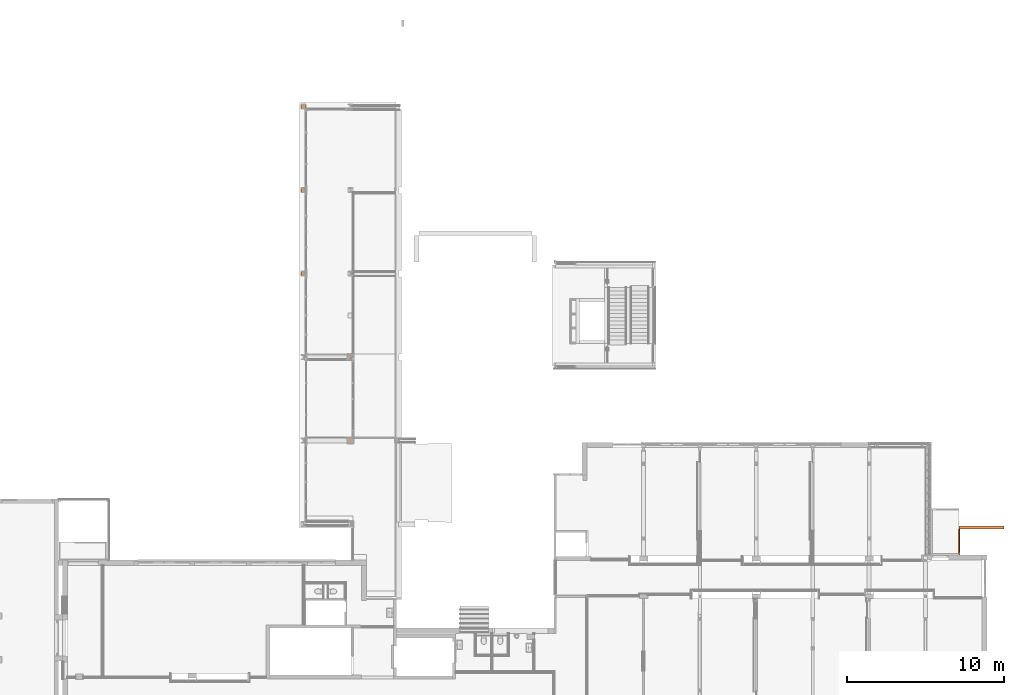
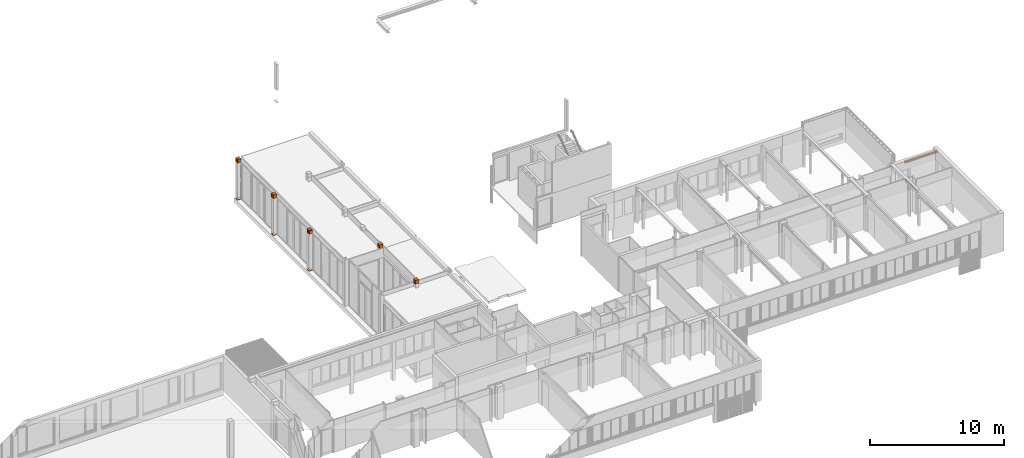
# One storey, part 98 of 99: 7 proxies.
"""IFC2X3 building model written with IfcOpenShell, lengths in millimetres."""

from ifc_helpers import new_model, entity, si_unit, converted_unit, derived_unit, money_unit, direction, frame, origin_with_axes, place, context, subcontext, project, spatial, faceted_brep, material, type_object, element, save


model = new_model("IFC2X3")

# Units and contexts
model_context = context("Model", 3, precision=0.01, world=origin_with_axes(), true_north=direction((0.0, 1.0)))
body_context = subcontext(model_context, "Body", "Model", "MODEL_VIEW")
ifc_project = project(units=[si_unit("LENGTHUNIT", "METRE", prefix="MILLI"), si_unit("AREAUNIT", "SQUARE_METRE"), si_unit("VOLUMEUNIT", "CUBIC_METRE"), converted_unit("PLANEANGLEUNIT", "DEGREE", entity("IfcPlaneAngleMeasure", 0.0174532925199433), si_unit("PLANEANGLEUNIT", "RADIAN"), dimensions=[0, 0, 0, 0, 0, 0, 0]), money_unit("EUR"), converted_unit("TIMEUNIT", "Year", entity("IfcTimeMeasure", 31557600.0), si_unit("TIMEUNIT", "SECOND"), dimensions=[0, 0, 1, 0, 0, 0, 0]), si_unit("MASSUNIT", "GRAM", prefix="KILO"), si_unit("THERMODYNAMICTEMPERATUREUNIT", "DEGREE_CELSIUS"), si_unit("LUMINOUSINTENSITYUNIT", "LUMEN"), si_unit("ENERGYUNIT", "JOULE", prefix="MEGA"), derived_unit("THERMALCONDUCTANCEUNIT", [(si_unit("POWERUNIT", "WATT"), 1), (si_unit("LENGTHUNIT", "METRE"), -1), (si_unit("THERMODYNAMICTEMPERATUREUNIT", "KELVIN"), -1)]), derived_unit("SPECIFICHEATCAPACITYUNIT", [(si_unit("ENERGYUNIT", "JOULE"), 1), (si_unit("MASSUNIT", "GRAM", prefix="KILO"), -1), (si_unit("THERMODYNAMICTEMPERATUREUNIT", "KELVIN"), -1)]), derived_unit("MASSDENSITYUNIT", [(si_unit("MASSUNIT", "GRAM", prefix="KILO"), 1), (si_unit("VOLUMEUNIT", "CUBIC_METRE"), -1)])], contexts=[model_context])

# Site, building, storey
site_placement = place(None, origin_with_axes())
site = spatial("IfcSite", under=ifc_project, at=site_placement, Name="Site", CompositionType="ELEMENT")
building_placement = place(site_placement, origin_with_axes())
building = spatial("IfcBuilding", under=site, at=building_placement, Name="Naam gebouw", CompositionType="ELEMENT")
storey_placement = place(building_placement, frame((0.0, 0.0, 7650.0), z_axis=(0.0, 0.0, 1.0), x_axis=(1.0, 0.0, 0.0)))
storey = spatial("IfcBuildingStorey", under=building, at=storey_placement, Name="2e verdieping N", CompositionType="ELEMENT", Elevation=7650.0)

# Proxies
ifc_material_1 = material(Name="Metaal - Staal AFW")
building_element_proxy_type_1 = type_object("IfcBuildingElementProxyType", Name="UPN balk 27", PredefinedType="NOTDEFINED")
proxy_1_placement = place(storey_placement, frame((56167.15277777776, 20698.4124251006, -147.3277191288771), z_axis=(0.0, 0.0, 1.0), x_axis=(0.0, -1.0, 0.0)))
element("IfcBuildingElementProxy", 1, at=proxy_1_placement, inside=storey, type_object=building_element_proxy_type_1, material=ifc_material_1, Name="_Boom-x", context=body_context, shape_type="Brep", body=[
    faceted_brep([(0.0, 0.0, 160.0), (32.49999999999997, 32.5, 160.0), (-1587.499999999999, 32.49999999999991, 160.0000000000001), (-1587.499999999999, -32.5000000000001, 160.0000000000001), (-32.49999999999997, -32.5, 160.0), (0.0, 0.0, 149.5), (27.00000000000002, 27.00000000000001, 149.5), (29.74999999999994, 29.75000000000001, 150.2368602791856), (31.76313972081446, 31.76313972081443, 152.25), (32.49999999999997, 32.5, 155.0), (-32.49999999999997, -32.5, 0.0), (0.0, 0.0, 0.0), (32.49999999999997, 32.5, 0.0), (32.49999999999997, 32.5, 4.99999999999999), (31.76313972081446, 31.76313972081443, 7.749999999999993), (29.74999999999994, 29.75000000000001, 9.763139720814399), (27.00000000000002, 27.00000000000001, 10.49999999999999), (0.0, 0.0, 10.50000000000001), (-14.49999999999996, -14.5, 10.50000000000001), (-19.75000000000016, -19.75, 11.9067332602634), (-23.59326673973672, -23.59326673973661, 15.75), (-24.99999999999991, -25.0, 21.0), (-24.99999999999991, -25.0, 139.0), (-23.59326673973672, -23.59326673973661, 144.2500000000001), (-19.75000000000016, -19.75, 148.0932667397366), (-14.49999999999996, -14.5, 149.5), (-1587.499999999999, 32.49999999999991, 155.0000000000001), (-1587.499999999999, 29.74999999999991, 150.2368602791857), (-1587.499999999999, 26.99999999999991, 149.5000000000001), (-1587.499999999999, -14.5000000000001, 149.5000000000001), (-1587.499999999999, -19.75000000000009, 148.0932667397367), (-1587.499999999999, -23.5932667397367, 144.2500000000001), (-1587.499999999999, -25.0000000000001, 139.0000000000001), (-1587.499999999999, -25.0000000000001, 21.0000000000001), (-1587.499999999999, -23.5932667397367, 15.7500000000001), (-1587.499999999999, -19.75000000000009, 11.90673326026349), (-1587.499999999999, -14.5000000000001, 10.50000000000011), (-1587.499999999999, 26.99999999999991, 10.50000000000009), (-1587.499999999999, 29.74999999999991, 9.763139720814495), (-1587.499999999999, 31.76313972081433, 7.750000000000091), (-1587.499999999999, 32.49999999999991, 5.000000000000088), (-1587.499999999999, 32.49999999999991, 0.0), (-1587.499999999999, -32.5000000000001, 0.0), (-1587.499999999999, 31.76313972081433, 152.2500000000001)], [[[0, 1, 2, 3, 4]], [[5, 6, 7, 8, 9, 1, 0, 4, 10, 11, 12, 13, 14, 15, 16, 17, 18, 19, 20, 21, 22, 23, 24, 25]], [[1, 9, 26, 2]], [[27, 28, 29, 30, 31, 32, 33, 34, 35, 36, 37, 38, 39, 40, 41, 42, 3, 2, 26, 43]], [[4, 3, 42, 10]], [[25, 29, 28, 6, 5]], [[7, 6, 28, 27]], [[8, 7, 27, 43]], [[9, 8, 43, 26]], [[10, 42, 41, 12, 11]], [[13, 12, 41, 40]], [[14, 13, 40, 39]], [[15, 14, 39, 38]], [[16, 15, 38, 37]], [[17, 16, 37, 36, 18]], [[18, 36, 35, 19]], [[19, 35, 34, 20]], [[20, 34, 33, 21]], [[21, 33, 32, 22]], [[22, 32, 31, 23]], [[23, 31, 30, 24]], [[24, 30, 29, 25]]]),
])
building_element_proxy_type_2 = type_object("IfcBuildingElementProxyType", Name="HEA balk 26", PredefinedType="NOTDEFINED")
proxy_2_placement = place(storey_placement, frame((56124.65277777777, 22405.9124251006, 1389.999999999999), z_axis=(0.0, 0.0, 1.0), x_axis=(1.0, 0.0, 0.0)))
element("IfcBuildingElementProxy", 2, at=proxy_2_placement, inside=storey, type_object=building_element_proxy_type_2, material=ifc_material_1, Name="_Boom-x", context=body_context, shape_type="Brep", body=[
    faceted_brep([(0.0, -100.0, 0.0), (0.0, 100.0, 0.0), (2885.347222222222, 99.99999999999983, 0.0), (2885.347222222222, -100.0000000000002, 0.0), (0.0, -100.0, 10.0), (0.0, -21.25, 9.999999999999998), (0.0, -12.25, 12.4115427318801), (0.0, -5.661542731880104, 19.0), (0.0, -3.25, 28.0), (0.0, -3.25, 162.0), (0.0, -5.661542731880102, 171.0), (0.0, -12.25, 177.5884572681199), (0.0, -21.24999999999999, 180.0), (0.0, -100.0, 180.0), (0.0, -100.0, 190.0), (0.0, 100.0, 190.0), (0.0, 100.0, 180.0), (0.0, 21.24999999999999, 180.0), (0.0, 12.25, 177.5884572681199), (0.0, 5.661542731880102, 171.0), (0.0, 3.25, 162.0), (0.0, 3.25, 28.0), (0.0, 5.661542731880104, 19.0), (0.0, 12.25, 12.4115427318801), (0.0, 21.25, 9.999999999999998), (0.0, 100.0, 10.0), (2885.347222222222, 99.99999999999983, 10.00000000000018), (2885.347222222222, 21.24999999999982, 10.00000000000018), (2885.347222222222, 12.24999999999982, 12.41154273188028), (2885.347222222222, 5.661542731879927, 19.00000000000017), (2885.347222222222, 3.249999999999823, 28.00000000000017), (2885.347222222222, 3.249999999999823, 162.0000000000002), (2885.347222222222, 5.661542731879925, 171.0000000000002), (2885.347222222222, 12.24999999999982, 177.5884572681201), (2885.347222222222, 21.24999999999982, 180.0000000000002), (2885.347222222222, 99.99999999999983, 180.0000000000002), (2885.347222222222, 99.99999999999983, 190.0000000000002), (2885.347222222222, -100.0000000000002, 190.0000000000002), (2885.347222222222, -100.0000000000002, 180.0000000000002), (2885.347222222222, -21.25000000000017, 180.0000000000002), (2885.347222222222, -12.25000000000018, 177.5884572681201), (2885.347222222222, -5.661542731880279, 171.0000000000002), (2885.347222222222, -3.250000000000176, 162.0000000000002), (2885.347222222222, -3.250000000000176, 28.00000000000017), (2885.347222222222, -5.661542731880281, 19.00000000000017), (2885.347222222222, -12.25000000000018, 12.41154273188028), (2885.347222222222, -21.25000000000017, 10.00000000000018), (2885.347222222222, -100.0000000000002, 10.00000000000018)], [[[0, 1, 2, 3]], [[0, 4, 5, 6, 7, 8, 9, 10, 11, 12, 13, 14, 15, 16, 17, 18, 19, 20, 21, 22, 23, 24, 25, 1]], [[1, 25, 26, 2]], [[3, 2, 26, 27, 28, 29, 30, 31, 32, 33, 34, 35, 36, 37, 38, 39, 40, 41, 42, 43, 44, 45, 46, 47]], [[4, 0, 3, 47]], [[5, 4, 47, 46]], [[6, 5, 46, 45]], [[7, 6, 45, 44]], [[8, 7, 44, 43]], [[9, 8, 43, 42]], [[10, 9, 42, 41]], [[11, 10, 41, 40]], [[12, 11, 40, 39]], [[13, 12, 39, 38]], [[14, 13, 38, 37]], [[15, 14, 37, 36]], [[16, 15, 36, 35]], [[17, 16, 35, 34]], [[18, 17, 34, 33]], [[19, 18, 33, 32]], [[20, 19, 32, 31]], [[21, 20, 31, 30]], [[22, 21, 30, 29]], [[23, 22, 29, 28]], [[24, 23, 28, 27]], [[25, 24, 27, 26]]]),
])
ifc_material_2 = material(Name="staal geanodiseerd RAL 7024")
building_element_proxy_type_3 = type_object("IfcBuildingElementProxyType", Name="Structural Connections 3:Structural Connections 1", PredefinedType="NOTDEFINED")
proxy_3_placement = place(storey_placement, frame((28651.00001269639, 22625.91242505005, -3500.0), z_axis=(0.0, 0.0, 1.0), x_axis=(0.0, 1.0, 0.0)))
element("IfcBuildingElementProxy", 3, at=proxy_3_placement, inside=storey, type_object=building_element_proxy_type_3, material=ifc_material_2, Name="Structural Connections 3:Structural Connections 1", context=body_context, shape_type="Brep", body=[
    faceted_brep([(15840.00000127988, 14206.3694829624, 0.0), (16140.00000127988, 14206.3694829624, 0.0), (16140.00000127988, 14206.3694829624, 20.0), (15840.00000127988, 14206.3694829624, 20.0), (15840.00000127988, 14506.3694829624, 0.0), (16140.00000127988, 14506.3694829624, 0.0), (16140.00000127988, 14506.3694829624, 20.0), (15840.00000127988, 14506.3694829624, 20.0)], [[[0, 1, 2, 3]], [[0, 4, 5, 1]], [[1, 5, 6, 2]], [[3, 2, 6, 7]], [[4, 0, 3, 7]], [[5, 4, 7, 6]]]),
    faceted_brep([(15840.00000127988, 14206.36948296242, 3399.999999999), (16140.0000012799, 14206.36948296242, 3399.999999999), (16140.0000012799, 14206.36948296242, 3419.999999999), (15840.00000127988, 14206.36948296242, 3419.999999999), (15840.00000127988, 14506.3694829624, 3399.999999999), (16140.0000012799, 14506.3694829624, 3399.999999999), (16140.0000012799, 14506.3694829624, 3419.999999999), (15840.00000127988, 14506.3694829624, 3419.999999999)], [[[0, 1, 2, 3]], [[0, 4, 5, 1]], [[1, 5, 6, 2]], [[3, 2, 6, 7]], [[4, 0, 3, 7]], [[5, 4, 7, 6]]]),
    faceted_brep([(15840.00000127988, 14206.36948296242, 3679.999999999), (16140.00000127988, 14206.36948296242, 3679.999999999), (16140.00000127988, 14206.36948296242, 3680.99999999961), (15840.00000127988, 14206.36948296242, 3680.99999999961), (15840.00000127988, 14506.3694829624, 3679.999999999), (16140.00000127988, 14506.3694829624, 3679.999999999), (16140.00000127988, 14506.3694829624, 3680.99999999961), (15840.00000127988, 14506.3694829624, 3680.99999999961)], [[[0, 1, 2, 3]], [[0, 4, 5, 1]], [[1, 5, 6, 2]], [[3, 2, 6, 7]], [[4, 0, 3, 7]], [[5, 4, 7, 6]]]),
    faceted_brep([(15840.00000127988, 14206.3694829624, 3379.999999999), (16140.00000127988, 14206.3694829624, 3379.999999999), (16140.00000127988, 14206.3694829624, 3399.999999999), (15840.00000127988, 14206.3694829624, 3399.999999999), (15840.00000127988, 14506.3694829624, 3379.999999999), (16140.00000127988, 14506.3694829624, 3379.999999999), (16140.00000127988, 14506.3694829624, 3399.999999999), (15840.00000127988, 14506.3694829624, 3399.999999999)], [[[0, 1, 2, 3]], [[0, 4, 5, 1]], [[1, 5, 6, 2]], [[3, 2, 6, 7]], [[4, 0, 3, 7]], [[5, 4, 7, 6]]]),
    faceted_brep([(15859.00000127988, 14206.3694829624, 3680.99999999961), (15840.00000127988, 14206.3694829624, 3680.99999999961), (15840.00000127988, 14206.3694829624, 3399.999999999), (15859.00000127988, 14206.3694829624, 3399.999999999), (15859.00000127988, 14350.8694829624, 3680.99999999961), (16121.00000127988, 14350.8694829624, 3680.99999999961), (16121.00000127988, 14206.3694829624, 3680.99999999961), (16140.00000127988, 14206.3694829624, 3680.99999999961), (16140.00000127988, 14506.3694829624, 3680.99999999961), (16121.00000127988, 14506.3694829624, 3680.99999999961), (16121.00000127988, 14361.8694829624, 3680.99999999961), (15859.00000127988, 14361.8694829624, 3680.99999999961), (15859.00000127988, 14506.3694829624, 3680.99999999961), (15840.00000127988, 14506.3694829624, 3680.99999999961), (15840.00000127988, 14506.3694829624, 3399.999999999), (15859.00000127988, 14506.3694829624, 3399.999999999), (15859.00000127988, 14361.8694829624, 3399.999999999), (16121.00000127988, 14361.8694829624, 3399.999999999), (16121.00000127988, 14506.3694829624, 3399.999999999), (16140.00000127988, 14506.3694829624, 3399.999999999), (16140.00000127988, 14206.3694829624, 3399.999999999), (16121.00000127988, 14206.3694829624, 3399.999999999), (16121.00000127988, 14350.8694829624, 3399.999999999), (15859.00000127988, 14350.8694829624, 3399.999999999)], [[[0, 1, 2, 3]], [[0, 4, 5, 6, 7, 8, 9, 10, 11, 12, 13, 1]], [[1, 13, 14, 2]], [[3, 2, 14, 15, 16, 17, 18, 19, 20, 21, 22, 23]], [[4, 0, 3, 23]], [[5, 4, 23, 22]], [[6, 5, 22, 21]], [[7, 6, 21, 20]], [[8, 7, 20, 19]], [[9, 8, 19, 18]], [[10, 9, 18, 17]], [[11, 10, 17, 16]], [[12, 11, 16, 15]], [[13, 12, 15, 14]]]),
])
building_element_proxy_type_4 = type_object("IfcBuildingElementProxyType", Name="Structural Connections 5:Structural Connections 1", PredefinedType="NOTDEFINED")
proxy_4_placement = place(storey_placement, frame((28651.00001269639, 22625.91242505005, -3500.0), z_axis=(0.0, 0.0, 1.0), x_axis=(0.0, 1.0, 0.0)))
element("IfcBuildingElementProxy", 4, at=proxy_4_placement, inside=storey, type_object=building_element_proxy_type_4, material=ifc_material_2, Name="Structural Connections 5:Structural Connections 1", context=body_context, shape_type="Brep", body=[
    faceted_brep([(26500.00000127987, 14206.36948296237, 0.0), (26800.00000127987, 14206.36948296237, 0.0), (26800.00000127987, 14206.36948296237, 20.0), (26500.00000127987, 14206.36948296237, 20.0), (26500.00000127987, 14506.36948296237, 0.0), (26800.00000127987, 14506.36948296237, 0.0), (26800.00000127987, 14506.36948296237, 20.0), (26500.00000127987, 14506.36948296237, 20.0)], [[[0, 1, 2, 3]], [[0, 4, 5, 1]], [[1, 5, 6, 2]], [[3, 2, 6, 7]], [[4, 0, 3, 7]], [[5, 4, 7, 6]]]),
    faceted_brep([(26500.00000127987, 14206.36948296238, 3399.999999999), (26800.00000127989, 14206.36948296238, 3399.999999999), (26800.00000127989, 14206.36948296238, 3419.999999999), (26500.00000127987, 14206.36948296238, 3419.999999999), (26500.00000127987, 14506.36948296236, 3399.999999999), (26800.00000127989, 14506.36948296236, 3399.999999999), (26800.00000127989, 14506.36948296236, 3419.999999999), (26500.00000127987, 14506.36948296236, 3419.999999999)], [[[0, 1, 2, 3]], [[0, 4, 5, 1]], [[1, 5, 6, 2]], [[3, 2, 6, 7]], [[4, 0, 3, 7]], [[5, 4, 7, 6]]]),
    faceted_brep([(26500.00000127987, 14206.36948296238, 3679.999999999), (26800.00000127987, 14206.36948296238, 3679.999999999), (26800.00000127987, 14206.36948296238, 3680.99999999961), (26500.00000127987, 14206.36948296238, 3680.99999999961), (26500.00000127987, 14506.36948296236, 3679.999999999), (26800.00000127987, 14506.36948296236, 3679.999999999), (26800.00000127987, 14506.36948296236, 3680.99999999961), (26500.00000127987, 14506.36948296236, 3680.99999999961)], [[[0, 1, 2, 3]], [[0, 4, 5, 1]], [[1, 5, 6, 2]], [[3, 2, 6, 7]], [[4, 0, 3, 7]], [[5, 4, 7, 6]]]),
    faceted_brep([(26500.00000127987, 14206.36948296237, 3379.999999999), (26800.00000127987, 14206.36948296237, 3379.999999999), (26800.00000127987, 14206.36948296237, 3399.999999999), (26500.00000127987, 14206.36948296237, 3399.999999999), (26500.00000127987, 14506.36948296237, 3379.999999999), (26800.00000127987, 14506.36948296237, 3379.999999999), (26800.00000127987, 14506.36948296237, 3399.999999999), (26500.00000127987, 14506.36948296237, 3399.999999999)], [[[0, 1, 2, 3]], [[0, 4, 5, 1]], [[1, 5, 6, 2]], [[3, 2, 6, 7]], [[4, 0, 3, 7]], [[5, 4, 7, 6]]]),
    faceted_brep([(26519.00000127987, 14206.36948296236, 3680.99999999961), (26500.00000127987, 14206.36948296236, 3680.99999999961), (26500.00000127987, 14206.36948296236, 3399.999999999), (26519.00000127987, 14206.36948296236, 3399.999999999), (26519.00000127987, 14350.86948296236, 3680.99999999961), (26781.00000127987, 14350.86948296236, 3680.99999999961), (26781.00000127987, 14206.36948296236, 3680.99999999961), (26800.00000127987, 14206.36948296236, 3680.99999999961), (26800.00000127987, 14506.36948296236, 3680.99999999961), (26781.00000127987, 14506.36948296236, 3680.99999999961), (26781.00000127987, 14361.86948296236, 3680.99999999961), (26519.00000127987, 14361.86948296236, 3680.99999999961), (26519.00000127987, 14506.36948296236, 3680.99999999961), (26500.00000127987, 14506.36948296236, 3680.99999999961), (26500.00000127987, 14506.36948296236, 3399.999999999), (26519.00000127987, 14506.36948296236, 3399.999999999), (26519.00000127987, 14361.86948296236, 3399.999999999), (26781.00000127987, 14361.86948296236, 3399.999999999), (26781.00000127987, 14506.36948296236, 3399.999999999), (26800.00000127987, 14506.36948296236, 3399.999999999), (26800.00000127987, 14206.36948296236, 3399.999999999), (26781.00000127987, 14206.36948296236, 3399.999999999), (26781.00000127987, 14350.86948296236, 3399.999999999), (26519.00000127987, 14350.86948296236, 3399.999999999)], [[[0, 1, 2, 3]], [[0, 4, 5, 6, 7, 8, 9, 10, 11, 12, 13, 1]], [[1, 13, 14, 2]], [[3, 2, 14, 15, 16, 17, 18, 19, 20, 21, 22, 23]], [[4, 0, 3, 23]], [[5, 4, 23, 22]], [[6, 5, 22, 21]], [[7, 6, 21, 20]], [[8, 7, 20, 19]], [[9, 8, 19, 18]], [[10, 9, 18, 17]], [[11, 10, 17, 16]], [[12, 11, 16, 15]], [[13, 12, 15, 14]]]),
])
building_element_proxy_type_5 = type_object("IfcBuildingElementProxyType", Name="Structural Connections 4:Structural Connections 1", PredefinedType="NOTDEFINED")
proxy_5_placement = place(storey_placement, frame((28651.00001269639, 22625.91242505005, -3500.0), z_axis=(0.0, 0.0, 1.0), x_axis=(0.0, 1.0, 0.0)))
element("IfcBuildingElementProxy", 5, at=proxy_5_placement, inside=storey, type_object=building_element_proxy_type_5, material=ifc_material_2, Name="Structural Connections 4:Structural Connections 1", context=body_context, shape_type="Brep", body=[
    faceted_brep([(21170.00000127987, 14206.36948296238, 0.0), (21470.00000127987, 14206.36948296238, 0.0), (21470.00000127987, 14206.36948296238, 20.0), (21170.00000127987, 14206.36948296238, 20.0), (21170.00000127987, 14506.36948296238, 0.0), (21470.00000127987, 14506.36948296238, 0.0), (21470.00000127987, 14506.36948296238, 20.0), (21170.00000127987, 14506.36948296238, 20.0)], [[[0, 1, 2, 3]], [[0, 4, 5, 1]], [[1, 5, 6, 2]], [[3, 2, 6, 7]], [[4, 0, 3, 7]], [[5, 4, 7, 6]]]),
    faceted_brep([(21170.00000127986, 14206.3694829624, 3399.999999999), (21470.00000127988, 14206.3694829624, 3399.999999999), (21470.00000127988, 14206.3694829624, 3419.999999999), (21170.00000127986, 14206.3694829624, 3419.999999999), (21170.00000127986, 14506.36948296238, 3399.999999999), (21470.00000127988, 14506.36948296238, 3399.999999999), (21470.00000127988, 14506.36948296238, 3419.999999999), (21170.00000127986, 14506.36948296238, 3419.999999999)], [[[0, 1, 2, 3]], [[0, 4, 5, 1]], [[1, 5, 6, 2]], [[3, 2, 6, 7]], [[4, 0, 3, 7]], [[5, 4, 7, 6]]]),
    faceted_brep([(21170.00000127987, 14206.3694829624, 3679.999999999), (21470.00000127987, 14206.3694829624, 3679.999999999), (21470.00000127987, 14206.3694829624, 3680.99999999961), (21170.00000127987, 14206.3694829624, 3680.99999999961), (21170.00000127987, 14506.36948296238, 3679.999999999), (21470.00000127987, 14506.36948296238, 3679.999999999), (21470.00000127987, 14506.36948296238, 3680.99999999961), (21170.00000127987, 14506.36948296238, 3680.99999999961)], [[[0, 1, 2, 3]], [[0, 4, 5, 1]], [[1, 5, 6, 2]], [[3, 2, 6, 7]], [[4, 0, 3, 7]], [[5, 4, 7, 6]]]),
    faceted_brep([(21170.00000127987, 14206.36948296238, 3379.999999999), (21470.00000127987, 14206.36948296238, 3379.999999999), (21470.00000127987, 14206.36948296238, 3399.999999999), (21170.00000127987, 14206.36948296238, 3399.999999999), (21170.00000127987, 14506.36948296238, 3379.999999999), (21470.00000127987, 14506.36948296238, 3379.999999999), (21470.00000127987, 14506.36948296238, 3399.999999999), (21170.00000127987, 14506.36948296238, 3399.999999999)], [[[0, 1, 2, 3]], [[0, 4, 5, 1]], [[1, 5, 6, 2]], [[3, 2, 6, 7]], [[4, 0, 3, 7]], [[5, 4, 7, 6]]]),
    faceted_brep([(21189.00000127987, 14206.36948296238, 3680.99999999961), (21170.00000127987, 14206.36948296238, 3680.99999999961), (21170.00000127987, 14206.36948296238, 3399.999999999), (21189.00000127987, 14206.36948296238, 3399.999999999), (21189.00000127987, 14350.86948296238, 3680.99999999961), (21451.00000127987, 14350.86948296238, 3680.99999999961), (21451.00000127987, 14206.36948296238, 3680.99999999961), (21470.00000127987, 14206.36948296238, 3680.99999999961), (21470.00000127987, 14506.36948296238, 3680.99999999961), (21451.00000127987, 14506.36948296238, 3680.99999999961), (21451.00000127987, 14361.86948296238, 3680.99999999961), (21189.00000127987, 14361.86948296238, 3680.99999999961), (21189.00000127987, 14506.36948296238, 3680.99999999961), (21170.00000127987, 14506.36948296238, 3680.99999999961), (21170.00000127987, 14506.36948296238, 3399.999999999), (21189.00000127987, 14506.36948296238, 3399.999999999), (21189.00000127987, 14361.86948296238, 3399.999999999), (21451.00000127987, 14361.86948296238, 3399.999999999), (21451.00000127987, 14506.36948296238, 3399.999999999), (21470.00000127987, 14506.36948296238, 3399.999999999), (21470.00000127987, 14206.36948296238, 3399.999999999), (21451.00000127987, 14206.36948296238, 3399.999999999), (21451.00000127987, 14350.86948296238, 3399.999999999), (21189.00000127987, 14350.86948296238, 3399.999999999)], [[[0, 1, 2, 3]], [[0, 4, 5, 6, 7, 8, 9, 10, 11, 12, 13, 1]], [[1, 13, 14, 2]], [[3, 2, 14, 15, 16, 17, 18, 19, 20, 21, 22, 23]], [[4, 0, 3, 23]], [[5, 4, 23, 22]], [[6, 5, 22, 21]], [[7, 6, 21, 20]], [[8, 7, 20, 19]], [[9, 8, 19, 18]], [[10, 9, 18, 17]], [[11, 10, 17, 16]], [[12, 11, 16, 15]], [[13, 12, 15, 14]]]),
])
building_element_proxy_type_6 = type_object("IfcBuildingElementProxyType", Name="Structural Connections 235:Structural Connections 1", PredefinedType="NOTDEFINED")
proxy_6_placement = place(storey_placement, frame((28651.00001269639, 22625.91242505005, -3500.0), z_axis=(0.0, 0.0, 1.0), x_axis=(0.0, 1.0, 0.0)))
element("IfcBuildingElementProxy", 6, at=proxy_6_placement, inside=storey, type_object=building_element_proxy_type_6, material=ifc_material_2, Name="Structural Connections 235:Structural Connections 1", context=body_context, shape_type="Brep", body=[
    faceted_brep([(5180.000001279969, 11209.00001265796, 4240.0), (5480.00000127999, 11209.00001265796, 4240.0), (5480.00000127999, 11209.00001265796, 4260.0), (5180.000001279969, 11209.00001265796, 4260.0), (5180.000001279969, 11509.00001265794, 4240.0), (5480.00000127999, 11509.00001265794, 4240.0), (5480.00000127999, 11509.00001265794, 4260.0), (5180.000001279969, 11509.00001265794, 4260.0)], [[[0, 1, 2, 3]], [[0, 4, 5, 1]], [[1, 5, 6, 2]], [[3, 2, 6, 7]], [[4, 0, 3, 7]], [[5, 4, 7, 6]]]),
    faceted_brep([(5180.000001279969, 11209.00001265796, 4520.0), (5480.00000127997, 11209.00001265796, 4520.0), (5480.00000127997, 11209.00001265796, 4539.999999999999), (5180.000001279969, 11209.00001265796, 4539.999999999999), (5180.000001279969, 11509.00001265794, 4520.0), (5480.00000127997, 11509.00001265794, 4520.0), (5480.00000127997, 11509.00001265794, 4539.999999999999), (5180.000001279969, 11509.00001265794, 4539.999999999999)], [[[0, 1, 2, 3]], [[0, 4, 5, 1]], [[1, 5, 6, 2]], [[3, 2, 6, 7]], [[4, 0, 3, 7]], [[5, 4, 7, 6]]]),
    faceted_brep([(5180.000001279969, 11209.00001265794, 4540.0), (5480.00000127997, 11209.00001265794, 4540.0), (5480.00000127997, 11209.00001265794, 4560.0), (5180.000001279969, 11209.00001265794, 4560.0), (5180.000001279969, 11509.00001265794, 4540.0), (5480.00000127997, 11509.00001265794, 4540.0), (5480.00000127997, 11509.00001265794, 4560.0), (5180.000001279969, 11509.00001265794, 4560.0)], [[[0, 1, 2, 3]], [[0, 4, 5, 1]], [[1, 5, 6, 2]], [[3, 2, 6, 7]], [[4, 0, 3, 7]], [[5, 4, 7, 6]]]),
    faceted_brep([(5180.000001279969, 11209.00001265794, 4220.0), (5480.00000127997, 11209.00001265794, 4220.0), (5480.00000127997, 11209.00001265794, 4239.999999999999), (5180.000001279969, 11209.00001265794, 4239.999999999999), (5180.000001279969, 11509.00001265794, 4220.0), (5480.00000127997, 11509.00001265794, 4220.0), (5480.00000127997, 11509.00001265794, 4239.999999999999), (5180.000001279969, 11509.00001265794, 4239.999999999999)], [[[0, 1, 2, 3]], [[0, 4, 5, 1]], [[1, 5, 6, 2]], [[3, 2, 6, 7]], [[4, 0, 3, 7]], [[5, 4, 7, 6]]]),
    faceted_brep([(5199.00000127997, 11209.00001265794, 4540.0), (5180.000001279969, 11209.00001265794, 4540.0), (5180.000001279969, 11209.00001265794, 4240.0), (5199.00000127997, 11209.00001265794, 4240.0), (5199.00000127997, 11353.50001265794, 4540.0), (5461.00000127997, 11353.50001265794, 4540.0), (5461.00000127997, 11209.00001265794, 4540.0), (5480.00000127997, 11209.00001265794, 4540.0), (5480.00000127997, 11509.00001265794, 4540.0), (5461.00000127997, 11509.00001265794, 4540.0), (5461.00000127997, 11364.50001265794, 4540.0), (5199.00000127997, 11364.50001265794, 4540.0), (5199.00000127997, 11509.00001265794, 4540.0), (5180.000001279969, 11509.00001265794, 4540.0), (5180.000001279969, 11509.00001265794, 4240.0), (5199.00000127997, 11509.00001265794, 4240.0), (5199.00000127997, 11364.50001265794, 4240.0), (5461.00000127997, 11364.50001265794, 4240.0), (5461.00000127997, 11509.00001265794, 4240.0), (5480.00000127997, 11509.00001265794, 4240.0), (5480.00000127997, 11209.00001265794, 4240.0), (5461.00000127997, 11209.00001265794, 4240.0), (5461.00000127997, 11353.50001265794, 4240.0), (5199.00000127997, 11353.50001265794, 4240.0)], [[[0, 1, 2, 3]], [[0, 4, 5, 6, 7, 8, 9, 10, 11, 12, 13, 1]], [[1, 13, 14, 2]], [[3, 2, 14, 15, 16, 17, 18, 19, 20, 21, 22, 23]], [[4, 0, 3, 23]], [[5, 4, 23, 22]], [[6, 5, 22, 21]], [[7, 6, 21, 20]], [[8, 7, 20, 19]], [[9, 8, 19, 18]], [[10, 9, 18, 17]], [[11, 10, 17, 16]], [[12, 11, 16, 15]], [[13, 12, 15, 14]]]),
])
building_element_proxy_type_7 = type_object("IfcBuildingElementProxyType", Name="Structural Connections 261:Structural Connections 1", PredefinedType="NOTDEFINED")
proxy_7_placement = place(storey_placement, frame((28651.00001269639, 22625.91242505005, -3500.0), z_axis=(0.0, 0.0, 1.0), x_axis=(0.0, 1.0, 0.0)))
element("IfcBuildingElementProxy", 7, at=proxy_7_placement, inside=storey, type_object=building_element_proxy_type_7, material=ifc_material_2, Name="Structural Connections 261:Structural Connections 1", context=body_context, shape_type="Brep", body=[
    faceted_brep([(10510.00000128, 11209.00001265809, 4240.0), (10810.00000128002, 11209.00001265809, 4240.0), (10810.00000128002, 11209.00001265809, 4260.0), (10510.00000128, 11209.00001265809, 4260.0), (10510.00000128, 11509.00001265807, 4240.0), (10810.00000128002, 11509.00001265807, 4240.0), (10810.00000128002, 11509.00001265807, 4260.0), (10510.00000128, 11509.00001265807, 4260.0)], [[[0, 1, 2, 3]], [[0, 4, 5, 1]], [[1, 5, 6, 2]], [[3, 2, 6, 7]], [[4, 0, 3, 7]], [[5, 4, 7, 6]]]),
    faceted_brep([(10510.00000128, 11209.00001265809, 4520.0), (10810.00000128, 11209.00001265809, 4520.0), (10810.00000128, 11209.00001265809, 4539.999999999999), (10510.00000128, 11209.00001265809, 4539.999999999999), (10510.00000128, 11509.00001265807, 4520.0), (10810.00000128, 11509.00001265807, 4520.0), (10810.00000128, 11509.00001265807, 4539.999999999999), (10510.00000128, 11509.00001265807, 4539.999999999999)], [[[0, 1, 2, 3]], [[0, 4, 5, 1]], [[1, 5, 6, 2]], [[3, 2, 6, 7]], [[4, 0, 3, 7]], [[5, 4, 7, 6]]]),
    faceted_brep([(10510.00000128, 11209.00001265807, 4540.0), (10810.00000128, 11209.00001265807, 4540.0), (10810.00000128, 11209.00001265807, 4560.0), (10510.00000128, 11209.00001265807, 4560.0), (10510.00000128, 11509.00001265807, 4540.0), (10810.00000128, 11509.00001265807, 4540.0), (10810.00000128, 11509.00001265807, 4560.0), (10510.00000128, 11509.00001265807, 4560.0)], [[[0, 1, 2, 3]], [[0, 4, 5, 1]], [[1, 5, 6, 2]], [[3, 2, 6, 7]], [[4, 0, 3, 7]], [[5, 4, 7, 6]]]),
    faceted_brep([(10529.00000128, 11209.00001265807, 4540.0), (10510.00000128, 11209.00001265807, 4540.0), (10510.00000128, 11209.00001265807, 4240.0), (10529.00000128, 11209.00001265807, 4240.0), (10529.00000128, 11353.50001265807, 4540.0), (10791.00000128, 11353.50001265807, 4540.0), (10791.00000128, 11209.00001265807, 4540.0), (10810.00000128, 11209.00001265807, 4540.0), (10810.00000128, 11509.00001265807, 4540.0), (10791.00000128, 11509.00001265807, 4540.0), (10791.00000128, 11364.50001265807, 4540.0), (10529.00000128, 11364.50001265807, 4540.0), (10529.00000128, 11509.00001265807, 4540.0), (10510.00000128, 11509.00001265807, 4540.0), (10510.00000128, 11509.00001265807, 4240.0), (10529.00000128, 11509.00001265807, 4240.0), (10529.00000128, 11364.50001265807, 4240.0), (10791.00000128, 11364.50001265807, 4240.0), (10791.00000128, 11509.00001265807, 4240.0), (10810.00000128, 11509.00001265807, 4240.0), (10810.00000128, 11209.00001265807, 4240.0), (10791.00000128, 11209.00001265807, 4240.0), (10791.00000128, 11353.50001265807, 4240.0), (10529.00000128, 11353.50001265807, 4240.0)], [[[0, 1, 2, 3]], [[0, 4, 5, 6, 7, 8, 9, 10, 11, 12, 13, 1]], [[1, 13, 14, 2]], [[3, 2, 14, 15, 16, 17, 18, 19, 20, 21, 22, 23]], [[4, 0, 3, 23]], [[5, 4, 23, 22]], [[6, 5, 22, 21]], [[7, 6, 21, 20]], [[8, 7, 20, 19]], [[9, 8, 19, 18]], [[10, 9, 18, 17]], [[11, 10, 17, 16]], [[12, 11, 16, 15]], [[13, 12, 15, 14]]]),
])

save(model, "model.ifc")
